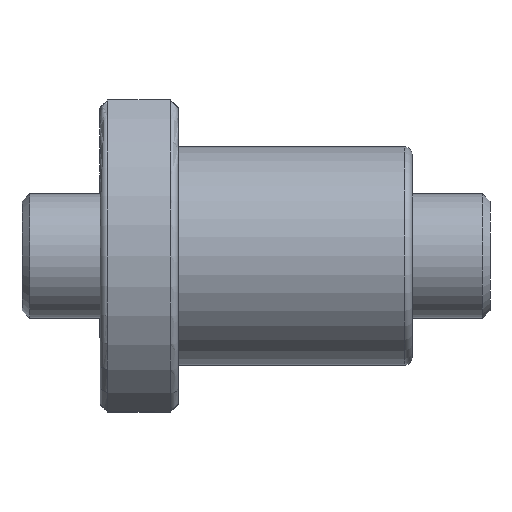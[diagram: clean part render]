
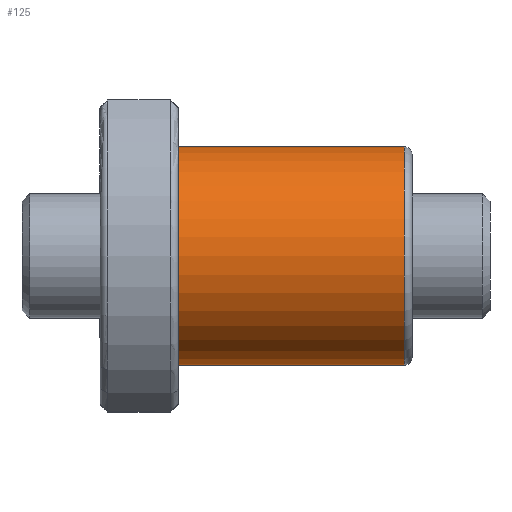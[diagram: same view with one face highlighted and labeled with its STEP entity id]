
A CAD part, front view. The second image highlights one B-rep face of the part: STEP entity #125.
In plain terms, the highlighted cylindrical face has radius 14 mm (diameter 28 mm), a partial arc.
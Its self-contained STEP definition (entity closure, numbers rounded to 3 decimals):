
#125 = ADVANCED_FACE ( 'NONE', ( #966 ), #4348, .T. ) ;
#337 = DIRECTION ( 'NONE',  ( 1., 0., 0. ) ) ;
#432 = DIRECTION ( 'NONE',  ( -1., 0., 0. ) ) ;
#641 = DIRECTION ( 'NONE',  ( 0., 0., 1. ) ) ;
#726 = DIRECTION ( 'NONE',  ( -1., 0., 0. ) ) ;
#793 = CARTESIAN_POINT ( 'NONE',  ( 10., 0., 14. ) ) ;
#794 = VECTOR ( 'NONE', #432, 1000. ) ;
#826 = CARTESIAN_POINT ( 'NONE',  ( 39., 0., 14. ) ) ;
#943 = AXIS2_PLACEMENT_3D ( 'NONE', #1345, #2152, #1381 ) ;
#966 = FACE_OUTER_BOUND ( 'NONE', #1559, .T. ) ;
#997 = LINE ( 'NONE', #1458, #3501 ) ;
#1102 = ORIENTED_EDGE ( 'NONE', *, *, #2403, .T. ) ;
#1208 = VERTEX_POINT ( 'NONE', #2702 ) ;
#1307 = LINE ( 'NONE', #4524, #794 ) ;
#1345 = CARTESIAN_POINT ( 'NONE',  ( 39., 0., 0. ) ) ;
#1381 = DIRECTION ( 'NONE',  ( 0., 0., 1. ) ) ;
#1444 = DIRECTION ( 'NONE',  ( 0., 0., 1. ) ) ;
#1458 = CARTESIAN_POINT ( 'NONE',  ( 40., 0., 14. ) ) ;
#1559 = EDGE_LOOP ( 'NONE', ( #2916, #1102, #4010, #4782 ) ) ;
#1570 = AXIS2_PLACEMENT_3D ( 'NONE', #2170, #2921, #1444 ) ;
#2152 = DIRECTION ( 'NONE',  ( -1., 0., 0. ) ) ;
#2170 = CARTESIAN_POINT ( 'NONE',  ( 40., 0., 0. ) ) ;
#2377 = EDGE_CURVE ( 'NONE', #4070, #2686, #3737, .T. ) ;
#2403 = EDGE_CURVE ( 'NONE', #1208, #4296, #3343, .T. ) ;
#2528 = CARTESIAN_POINT ( 'NONE',  ( 10., 0., 0. ) ) ;
#2686 = VERTEX_POINT ( 'NONE', #3005 ) ;
#2702 = CARTESIAN_POINT ( 'NONE',  ( 39., 0., -14. ) ) ;
#2731 = EDGE_CURVE ( 'NONE', #1208, #2686, #1307, .T. ) ;
#2916 = ORIENTED_EDGE ( 'NONE', *, *, #2731, .F. ) ;
#2921 = DIRECTION ( 'NONE',  ( -1., 0., 0. ) ) ;
#3005 = CARTESIAN_POINT ( 'NONE',  ( 10., 0., -14. ) ) ;
#3274 = EDGE_CURVE ( 'NONE', #4296, #4070, #997, .T. ) ;
#3343 = CIRCLE ( 'NONE', #943, 14. ) ;
#3501 = VECTOR ( 'NONE', #726, 1000. ) ;
#3737 = CIRCLE ( 'NONE', #3936, 14. ) ;
#3936 = AXIS2_PLACEMENT_3D ( 'NONE', #2528, #337, #641 ) ;
#4010 = ORIENTED_EDGE ( 'NONE', *, *, #3274, .T. ) ;
#4070 = VERTEX_POINT ( 'NONE', #793 ) ;
#4296 = VERTEX_POINT ( 'NONE', #826 ) ;
#4348 = CYLINDRICAL_SURFACE ( 'NONE', #1570, 14. ) ;
#4524 = CARTESIAN_POINT ( 'NONE',  ( 40., 0., -14. ) ) ;
#4782 = ORIENTED_EDGE ( 'NONE', *, *, #2377, .T. ) ;
